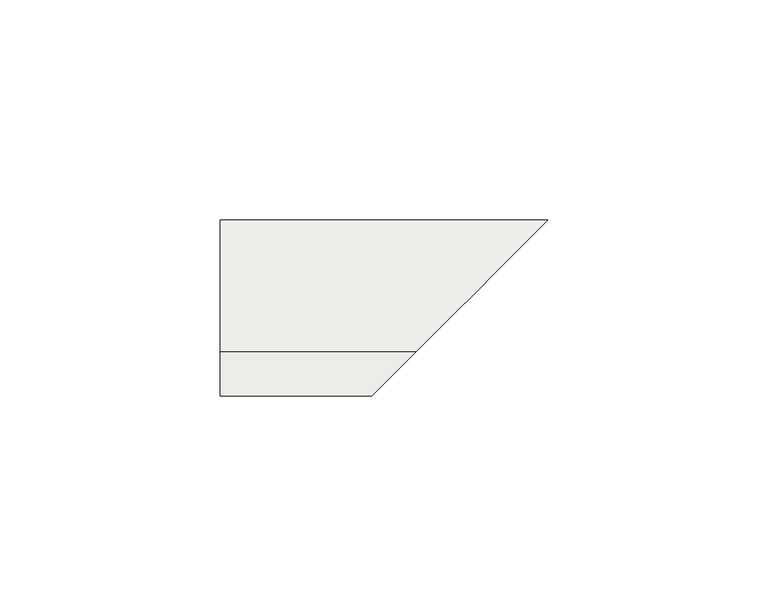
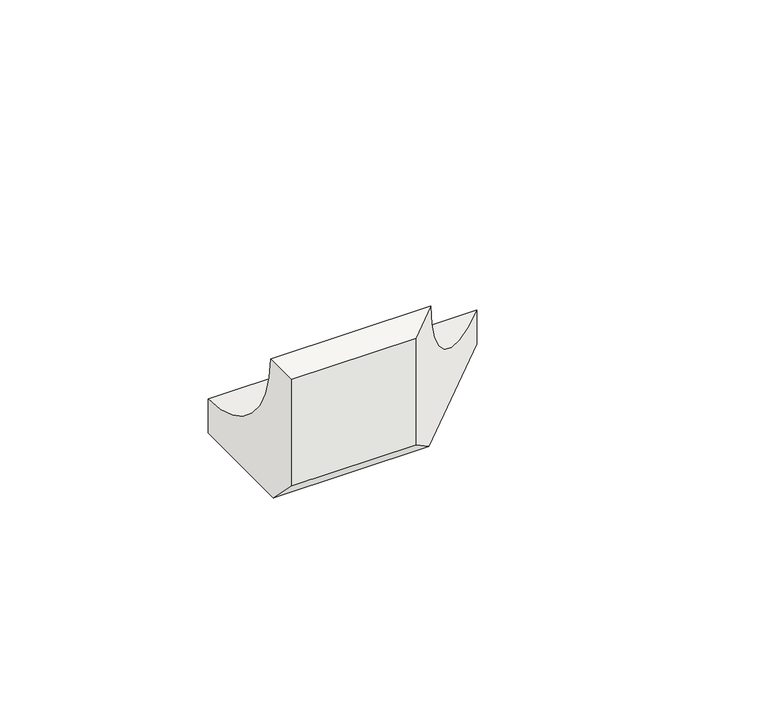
"""IFC4 building model written with IfcOpenShell, lengths in millimetres: slab geometry, ROSA GRES_112 (corte) : Pieza 112_Aqua_Marino_Liso."""

from ifc_helpers import new_model, si_unit, frame, origin, place, context, project, spatial, polyline, circle_curve, ellipse_curve, source, transform, mapped, element, save
from ifc_brep_helpers import plane_surface, revolved_surface, advanced_brep


def slab_beab1ff0(model_context):
    return source(origin(), model_context, "Body", "AdvancedBrep", [
        advanced_brep(
        [(0.0, 0.0, 8.7114978), (0.0, 0.0, 40.0), (0.0, 9.9734114, 40.0), (0.0, 40.0, 9.9734114), (0.0, 40.0, 0.0), (0.0, 8.7114978, 0.0), (34.5, 0.0, 8.7114978), (34.5, 0.0, 40.0), (44.4734114, 9.9734114, 40.0), (74.5, 40.0, 9.9734114), (74.5, 40.0, 0.0), (43.2114978, 8.7114978, 0.0)],
        [
            (0, 1),
            (1, 2),
            (2, 3, circle_curve(frame((0.0, 39.9955547, 39.9955547), z_axis=(1.0, 0.0, 0.0), x_axis=(0.0, 1.0, 0.0)), 30.0221435)),
            (3, 4),
            (4, 5),
            (5, 0),
            (0, 6),
            (6, 7),
            (7, 1),
            (7, 8),
            (8, 2),
            (8, 9, ellipse_curve(frame((74.4955547, 39.9955547, 39.9955547), z_axis=(0.7071067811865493, -0.7071067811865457, 0.0), x_axis=(0.7071067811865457, 0.7071067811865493, 0.0)), 42.4577226, 30.0221435)),
            (9, 3),
            (9, 10),
            (10, 4),
            (10, 11),
            (11, 5),
            (11, 6),
        ],
        [
            plane_surface(frame((0.0, 0.0, 0.0), z_axis=(-1.0, 0.0, 0.0), x_axis=(0.0, 0.0, 1.0))),
            plane_surface(frame((0.0, 0.0, 8.7114978), z_axis=(0.0, -1.0, 0.0), x_axis=(1.0, 0.0, 0.0))),
            plane_surface(frame((0.0, 0.0, 40.0), z_axis=(0.0, 0.0, 1.0), x_axis=(1.0, 0.0, 0.0))),
            revolved_surface(polyline([(104.51769826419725, 70.0176982, 39.9955547), (0.0, 70.0176982, 39.9955547)]), (0.0, 39.9955547, 39.9955547), (1.0, 0.0, 0.0)),
            plane_surface(frame((0.0, 40.0, 9.9734114), z_axis=(0.0, 1.0, 0.0), x_axis=(1.0, 0.0, 0.0))),
            plane_surface(frame((0.0, 40.0, 0.0), z_axis=(0.0, 0.0, -1.0), x_axis=(1.0, 0.0, 0.0))),
            plane_surface(frame((0.0, 8.7114978, 0.0), z_axis=(0.0, -0.7071067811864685, -0.7071067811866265), x_axis=(1.0, 0.0, 0.0))),
            plane_surface(frame((75.0, 40.5, 104.9871832), z_axis=(0.7071067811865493, -0.7071067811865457, 0.0), x_axis=(0.0, 0.0, -1.0))),
        ],
        [
            (0, [[1, 2, 3, 4, 5, 6]]),
            (1, [[-1, 7, 8, 9]]),
            (2, [[-2, -9, 10, 11]]),
            (3, [[-3, -11, 12, 13]]),
            (4, [[-4, -13, 14, 15]]),
            (5, [[-5, -15, 16, 17]]),
            (6, [[-6, -17, 18, -7]]),
            (7, [[-8, -18, -16, -14, -12, -10]]),
        ],
    ),
    ])


if __name__ == "__main__":
    model = new_model("IFC4")
    model_context = context("Model", 3, world=origin())
    ifc_project = project(units=[si_unit("LENGTHUNIT", "METRE", prefix="MILLI")], contexts=[model_context])
    site = spatial("IfcSite", under=ifc_project)
    building = spatial("IfcBuilding", under=site)
    placement = place(None, origin())
    slab_shape = slab_beab1ff0(model_context)
    element("IfcSlab", 1, ObjectType="ROSA GRES_112 (corte) : Pieza 112_Aqua_Marino_Liso", at=placement, inside=building, context=model_context, shape_type="MappedRepresentation", body=[
        mapped(slab_shape, transform((0.0, 0.0, 0.0), x_axis=(1.0, 0.0, 0.0), y_axis=(0.0, 1.0, 0.0), z_axis=(0.0, 0.0, 1.0))),
    ])
    save(model, "model.ifc")
